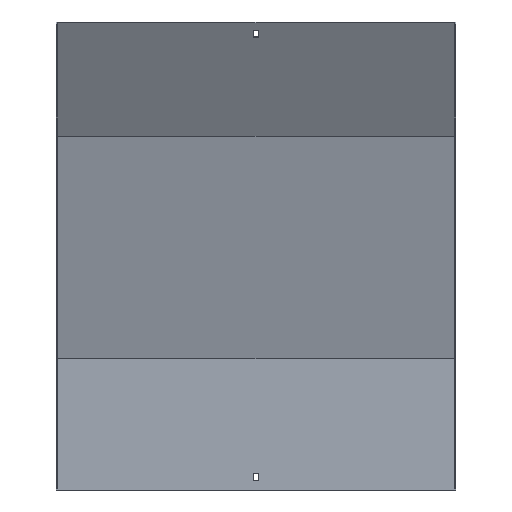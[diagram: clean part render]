
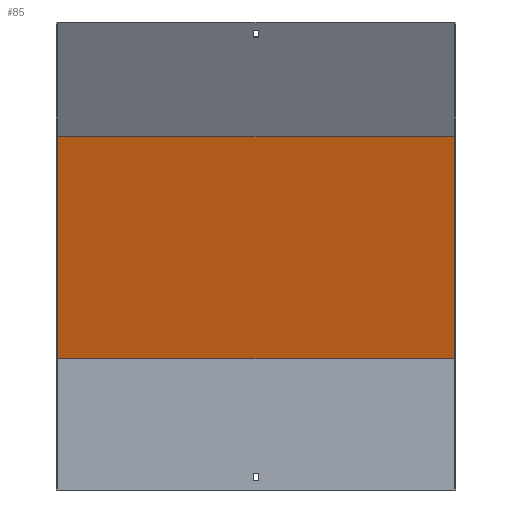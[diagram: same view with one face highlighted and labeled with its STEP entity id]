
A CAD part, front view. The second image highlights one B-rep face of the part: STEP entity #85.
In plain terms, the highlighted planar face has unit normal (0, -0.966, -0.259).
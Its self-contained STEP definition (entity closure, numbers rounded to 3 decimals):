
#8 = CARTESIAN_POINT ( 'NONE',  ( 250., 58.62, 15.707 ) ) ;
#15 = EDGE_CURVE ( 'NONE', #32, #667, #599, .T. ) ;
#32 = VERTEX_POINT ( 'NONE', #340 ) ;
#82 = VERTEX_POINT ( 'NONE', #617 ) ;
#85 = ADVANCED_FACE ( 'NONE', ( #292 ), #494, .T. ) ;
#89 = VECTOR ( 'NONE', #92, 1000. ) ;
#92 = DIRECTION ( 'NONE',  ( -1., 0., 0. ) ) ;
#114 = ORIENTED_EDGE ( 'NONE', *, *, #15, .T. ) ;
#169 = EDGE_CURVE ( 'NONE', #667, #290, #549, .T. ) ;
#173 = DIRECTION ( 'NONE',  ( 0., -0.966, -0.259 ) ) ;
#206 = EDGE_CURVE ( 'NONE', #32, #82, #237, .T. ) ;
#211 = VECTOR ( 'NONE', #450, 1000. ) ;
#226 = DIRECTION ( 'NONE',  ( 0., 0.259, -0.966 ) ) ;
#233 = CARTESIAN_POINT ( 'NONE',  ( 251.5, 17.87, 167.788 ) ) ;
#237 = LINE ( 'NONE', #675, #89 ) ;
#244 = CARTESIAN_POINT ( 'NONE',  ( -250., -56.524, 445.43 ) ) ;
#290 = VERTEX_POINT ( 'NONE', #244 ) ;
#292 = FACE_OUTER_BOUND ( 'NONE', #303, .T. ) ;
#303 = EDGE_LOOP ( 'NONE', ( #534, #614, #114, #851 ) ) ;
#319 = CARTESIAN_POINT ( 'NONE',  ( -250., 58.62, 15.707 ) ) ;
#340 = CARTESIAN_POINT ( 'NONE',  ( 250., 18.5, 165.436 ) ) ;
#405 = DIRECTION ( 'NONE',  ( 0., -0.259, 0.966 ) ) ;
#450 = DIRECTION ( 'NONE',  ( 0., -0.259, 0.966 ) ) ;
#494 = PLANE ( 'NONE',  #827 ) ;
#496 = VECTOR ( 'NONE', #764, 1000. ) ;
#534 = ORIENTED_EDGE ( 'NONE', *, *, #684, .F. ) ;
#549 = LINE ( 'NONE', #826, #496 ) ;
#554 = VECTOR ( 'NONE', #405, 1000. ) ;
#599 = LINE ( 'NONE', #8, #554 ) ;
#614 = ORIENTED_EDGE ( 'NONE', *, *, #206, .F. ) ;
#617 = CARTESIAN_POINT ( 'NONE',  ( -250., 18.5, 165.436 ) ) ;
#639 = LINE ( 'NONE', #319, #211 ) ;
#667 = VERTEX_POINT ( 'NONE', #852 ) ;
#675 = CARTESIAN_POINT ( 'NONE',  ( 251.5, 18.5, 165.436 ) ) ;
#684 = EDGE_CURVE ( 'NONE', #82, #290, #639, .T. ) ;
#764 = DIRECTION ( 'NONE',  ( -1., 0., 0. ) ) ;
#826 = CARTESIAN_POINT ( 'NONE',  ( 251.5, -56.524, 445.43 ) ) ;
#827 = AXIS2_PLACEMENT_3D ( 'NONE', #233, #173, #226 ) ;
#851 = ORIENTED_EDGE ( 'NONE', *, *, #169, .T. ) ;
#852 = CARTESIAN_POINT ( 'NONE',  ( 250., -56.524, 445.43 ) ) ;
